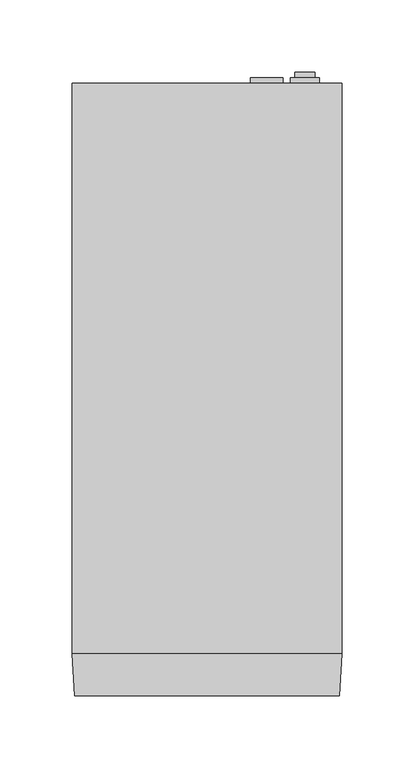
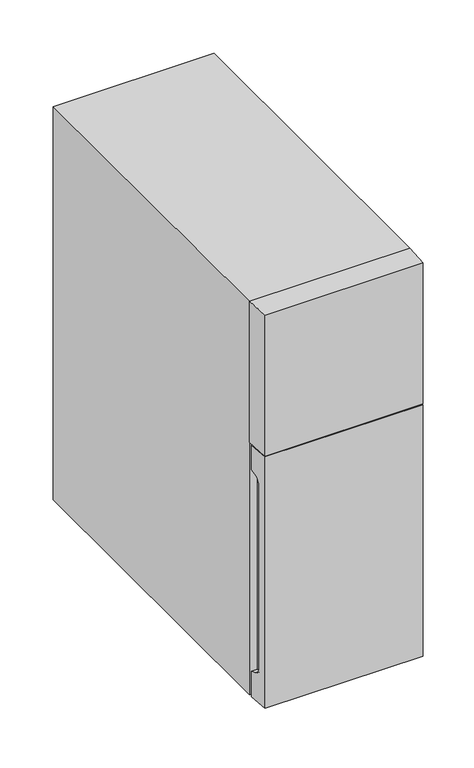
"""IFC4 building model written with IfcOpenShell, lengths in millimetres: proxy geometry, QF_SCHAERER_Cooling_Unit 7 Liter : Cooling Unit 7 Liter."""

from ifc_helpers import new_model, si_unit, point, frame, frame_2d, origin, origin_with_axes, place, context, project, spatial, polyline, circle_curve, ellipse_curve, trimmed, segment, composite_curve, outline, extrude, source, transform, mapped, element, save
from ifc_brep_helpers import plane_surface, revolved_surface, advanced_brep


def specialty_equipment_9da87bf8(model_context):
    return source(origin(), model_context, "Body", "SolidModel", [
        extrude(outline(polyline([(58.778379, 8.795824), (58.778379, 12.5374018), (72.4183514, 12.5374018), (72.4183514, 8.795824), (58.778379, 8.795824)])), frame((0.0, 0.0, 58.9800138), z_axis=(0.0, 0.0, 1.0), x_axis=(1.0, 0.0, 0.0)), (0.0, 0.0, 1.0), 18.567318),
        extrude(outline(polyline([(75.5441022, 4.795824), (55.6526282, 4.795824), (55.6526282, 8.795824), (75.5441022, 8.795824), (75.5441022, 4.795824)])), frame((0.0, 0.0, 55.6), z_axis=(0.0, 0.0, 1.0), x_axis=(1.0, 0.0, 0.0)), (0.0, 0.0, 1.0), 25.195737),
        extrude(outline(polyline([(50.3483652, 4.795824), (27.8483652, 4.795824), (27.8483652, 8.795824), (50.3483652, 8.795824), (50.3483652, 4.795824)])), frame((0.0, 0.0, 53.1), z_axis=(0.0, 0.0, 1.0), x_axis=(1.0, 0.0, 0.0)), (0.0, 0.0, 1.0), 30.0),
        advanced_brep(
        [(-94.0051167, -419.004176, 320.7768465), (89.3098471, -419.004176, 320.7768465), (90.8173493, -394.0019593, 320.7768465), (-95.512619, -394.0019593, 320.7768465), (-94.0051167, -419.004176, 11.6), (-95.512619, -394.0019593, 11.6), (90.8173493, -394.0019593, 11.6), (89.3098471, -419.004176, 11.6), (90.8173493, -394.0019593, 290.4933922), (83.5523652, -394.0019593, 290.4933922), (83.5523652, -394.0019593, 42.6090434), (90.8173493, -394.0019593, 42.6090434), (-95.512619, -394.0019593, 42.6090434), (-88.2476348, -394.0019593, 42.6090434), (-88.2476348, -394.0019593, 290.4933922), (-95.512619, -394.0019593, 290.4933922), (-95.0244948, -402.097593, 287.5468225), (-94.6674402, -408.0194117, 279.0895889), (-94.6674402, -408.0194117, 54.7130542), (-95.0641675, -401.4396132, 45.316128), (90.3688979, -401.4396132, 45.316128), (89.9721706, -408.0194117, 54.7130542), (89.9721706, -408.0194117, 279.0895889), (90.3292252, -402.097593, 287.5468225), (-88.2476348, -402.097593, 287.5468225), (-88.2476348, -401.4396132, 45.316128), (-88.2476348, -408.0194117, 54.7130542), (-88.2476348, -408.0194117, 279.0895889), (83.5523652, -402.097593, 287.5468225), (83.5523652, -408.0194117, 279.0895889), (83.5523652, -408.0194117, 54.7130542), (83.5523652, -401.4396132, 45.316128)],
        [
            (0, 1),
            (1, 2),
            (2, 3),
            (3, 0),
            (4, 5),
            (5, 6),
            (6, 7),
            (7, 4),
            (0, 4),
            (7, 1),
            (2, 8),
            (8, 9),
            (9, 10),
            (10, 11),
            (11, 6),
            (5, 12),
            (12, 13),
            (13, 14),
            (14, 15),
            (15, 3),
            (15, 16),
            (16, 17, ellipse_curve(frame((-95.2100929, -399.0194117, 279.0895889), z_axis=(0.9981872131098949, 0.06018544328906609, 0.0), x_axis=(0.06018544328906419, -0.9981872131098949, 0.0)), 9.0163447, 9.0)),
            (17, 18),
            (18, 19, ellipse_curve(frame((-95.2703877, -398.0194117, 54.7130542), z_axis=(0.9981872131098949, 0.06018544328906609, 0.0), x_axis=(0.06018544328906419, -0.9981872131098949, 0.0)), 10.0181608, 10.0)),
            (19, 12),
            (11, 20),
            (20, 21, ellipse_curve(frame((90.5751181, -398.0194117, 54.7130542), z_axis=(-0.9981872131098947, 0.060185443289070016, 0.0), x_axis=(-0.06018544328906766, -0.9981872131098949, 0.0)), 10.0181608, 10.0)),
            (21, 22),
            (22, 23, ellipse_curve(frame((90.5148233, -399.0194117, 279.0895889), z_axis=(-0.9981872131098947, 0.060185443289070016, 0.0), x_axis=(-0.06018544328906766, -0.9981872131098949, 0.0)), 9.0163447, 9.0)),
            (23, 8),
            (24, 14),
            (13, 25),
            (25, 26, circle_curve(frame((-88.2476348, -398.0194117, 54.7130542), z_axis=(-1.0, 0.0, 0.0), x_axis=(0.0, -1.0, 0.0)), 10.0)),
            (26, 27),
            (27, 24, circle_curve(frame((-88.2476348, -399.0194117, 279.0895889), z_axis=(-1.0, 0.0, 0.0), x_axis=(0.0, -1.0, 0.0)), 9.0)),
            (27, 17),
            (16, 24),
            (26, 18),
            (25, 19),
            (28, 29, circle_curve(frame((83.5523652, -399.0194117, 279.0895889), z_axis=(1.0, 0.0, 0.0), x_axis=(0.0, -1.0, 0.0)), 9.0)),
            (29, 30),
            (30, 31, circle_curve(frame((83.5523652, -398.0194117, 54.7130542), z_axis=(1.0, 0.0, 0.0), x_axis=(0.0, -1.0, 0.0)), 10.0)),
            (31, 10),
            (9, 28),
            (28, 23),
            (22, 29),
            (21, 30),
            (20, 31),
        ],
        [
            plane_surface(frame((-136.410899, -419.004176, 320.7768465), z_axis=(0.0, 0.0, 1.0), x_axis=(1.0, 0.0, 0.0))),
            plane_surface(frame((-136.410899, -419.004176, 11.6), z_axis=(0.0, 0.0, -1.0), x_axis=(-1.0, 0.0, 0.0))),
            plane_surface(frame((-94.0051167, -419.004176, 320.7768465), z_axis=(0.0, -1.0, 0.0), x_axis=(0.0, 0.0, -1.0))),
            plane_surface(frame((90.8173493, -394.0019593, 320.7768465), z_axis=(0.0, 1.0, 0.0), x_axis=(0.0, 0.0, -1.0))),
            plane_surface(frame((-95.512619, -394.0019593, 320.7768465), z_axis=(-0.9981872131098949, -0.06018544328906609, 0.0), x_axis=(0.0, 0.0, -1.0))),
            plane_surface(frame((89.3098471, -419.004176, 320.7768465), z_axis=(0.9981872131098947, -0.060185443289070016, 0.0), x_axis=(0.0, 0.0, -1.0))),
            plane_surface(frame((-88.2476348, -408.0194117, 279.0895889), z_axis=(-1.0, 0.0, 0.0), x_axis=(0.0, 0.0, -1.0))),
            revolved_surface(polyline([(-88.2476348, -408.0194117, 279.0895889), (-95.75274560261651, -408.0194117, 279.0895889)]), (-95.7476348, -399.0194117, 279.0895889), (1.0, 0.0, 0.0)),
            plane_surface(frame((-88.2476348, -408.0194117, 279.0895889), z_axis=(0.0, 1.0, 0.0), x_axis=(-1.0, 0.0, 0.0))),
            revolved_surface(polyline([(-88.2476348, -408.0194117, 54.7130542), (-95.87333514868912, -408.0194117, 54.7130542)]), (-95.7476348, -398.0194117, 54.7130542), (1.0, 0.0, 0.0)),
            plane_surface(frame((-88.2476348, -401.4396132, 45.316128), z_axis=(0.0, 0.34202014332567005, 0.939692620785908), x_axis=(-1.0, 0.0, 0.0))),
            plane_surface(frame((-88.2476348, -394.0019593, 290.4933922), z_axis=(0.0, 0.3420201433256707, -0.9396926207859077), x_axis=(-1.0, 0.0, 0.0))),
            plane_surface(frame((83.5523652, -395.4757807, 289.9569651), z_axis=(1.0, 0.0, 0.0), x_axis=(0.0, 0.9396926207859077, 0.3420201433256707))),
            revolved_surface(polyline([(83.5523652, -408.0194117, 279.0895889), (91.05747600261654, -408.0194117, 279.0895889)]), (91.0523652, -399.0194117, 279.0895889), (-1.0, 0.0, 0.0)),
            plane_surface(frame((83.5523652, -408.0194117, 54.7130542), z_axis=(0.0, 1.0, 0.0), x_axis=(1.0, 0.0, 0.0))),
            revolved_surface(polyline([(83.5523652, -408.0194117, 54.7130542), (91.17806554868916, -408.0194117, 54.7130542)]), (91.0523652, -398.0194117, 54.7130542), (-1.0, 0.0, 0.0)),
            plane_surface(frame((83.5523652, -394.0019593, 42.6090434), z_axis=(0.0, 0.34202014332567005, 0.939692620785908), x_axis=(1.0, 0.0, 0.0))),
            plane_surface(frame((83.5523652, -402.097593, 287.5468225), z_axis=(0.0, 0.3420201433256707, -0.9396926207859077), x_axis=(1.0, 0.0, 0.0))),
        ],
        [
            (0, [[1, 2, 3, 4]]),
            (1, [[5, 6, 7, 8]]),
            (2, [[-1, 9, -8, 10]]),
            (3, [[-3, 11, 12, 13, 14, 15, -6, 16, 17, 18, 19, 20]]),
            (4, [[-4, -20, 21, 22, 23, 24, 25, -16, -5, -9]]),
            (5, [[-2, -10, -7, -15, 26, 27, 28, 29, 30, -11]]),
            (6, [[31, -18, 32, 33, 34, 35]]),
            (7, [[-35, 36, -22, 37]]),
            (8, [[-34, 38, -23, -36]]),
            (9, [[-33, 39, -24, -38]]),
            (10, [[-32, -17, -25, -39]]),
            (11, [[-31, -37, -21, -19]]),
            (12, [[40, 41, 42, 43, -13, 44]]),
            (13, [[-40, 45, -29, 46]]),
            (14, [[-41, -46, -28, 47]]),
            (15, [[-42, -47, -27, 48]]),
            (16, [[-43, -48, -26, -14]]),
            (17, [[-44, -12, -30, -45]]),
        ],
    ),
        extrude(outline(polyline([(-94.0051167, -419.004176), (-95.7476348, -390.104176), (91.0523652, -390.104176), (89.3098471, -419.004176), (-94.0051167, -419.004176)])), frame((0.0, 0.0, 321.8461849), z_axis=(0.0, 0.0, 1.0), x_axis=(1.0, 0.0, 0.0)), (0.0, 0.0, 1.0), 173.2368397),
        extrude(outline(composite_curve([segment(trimmed(circle_curve(frame_2d((-61.8476348, -356.004176)), 3.1), [point((-64.9476348, -356.004176))], [point((-58.7476348, -356.004176))], False, "CARTESIAN"), True, "CONTINUOUS"), segment(trimmed(circle_curve(frame_2d((-61.8476348, -356.004176)), 3.1), [point((-58.7476348, -356.004176))], [point((-64.9476348, -356.004176))], False, "CARTESIAN"), True, "CONTINUOUS")], self_intersect=False)), frame((0.0, 0.0, 6.1), z_axis=(0.0, 0.0, 1.0), x_axis=(1.0, 0.0, 0.0)), (0.0, 0.0, 1.0), 5.5),
        extrude(outline(composite_curve([segment(trimmed(circle_curve(frame_2d((57.1523652, -356.004176)), 3.1), [point((60.2523652, -356.004176))], [point((54.0523652, -356.004176))], False, "CARTESIAN"), True, "CONTINUOUS"), segment(trimmed(circle_curve(frame_2d((57.1523652, -356.004176)), 3.1), [point((54.0523652, -356.004176))], [point((60.2523652, -356.004176))], False, "CARTESIAN"), True, "CONTINUOUS")], self_intersect=False)), frame((0.0, 0.0, 6.1), z_axis=(0.0, 0.0, 1.0), x_axis=(1.0, 0.0, 0.0)), (0.0, 0.0, 1.0), 5.5),
        extrude(outline(composite_curve([segment(trimmed(circle_curve(frame_2d((-61.8476348, -64.504176)), 3.1), [point((-64.9476348, -64.504176))], [point((-58.7476348, -64.504176))], False, "CARTESIAN"), True, "CONTINUOUS"), segment(trimmed(circle_curve(frame_2d((-61.8476348, -64.504176)), 3.1), [point((-58.7476348, -64.504176))], [point((-64.9476348, -64.504176))], False, "CARTESIAN"), True, "CONTINUOUS")], self_intersect=False)), frame((0.0, 0.0, 6.1), z_axis=(0.0, 0.0, 1.0), x_axis=(1.0, 0.0, 0.0)), (0.0, 0.0, 1.0), 5.5),
        extrude(outline(composite_curve([segment(trimmed(circle_curve(frame_2d((57.1523652, -64.504176)), 3.1), [point((60.2523652, -64.504176))], [point((54.0523652, -64.504176))], False, "CARTESIAN"), True, "CONTINUOUS"), segment(trimmed(circle_curve(frame_2d((57.1523652, -64.504176)), 3.1), [point((54.0523652, -64.504176))], [point((60.2523652, -64.504176))], False, "CARTESIAN"), True, "CONTINUOUS")], self_intersect=False)), frame((0.0, 0.0, 6.1), z_axis=(0.0, 0.0, 1.0), x_axis=(1.0, 0.0, 0.0)), (0.0, 0.0, 1.0), 5.5),
        extrude(outline(composite_curve([segment(trimmed(circle_curve(frame_2d((-61.8476348, -356.004176)), 12.0), [point((-73.8476348, -356.004176))], [point((-49.8476348, -356.004176))], False, "CARTESIAN"), True, "CONTINUOUS"), segment(trimmed(circle_curve(frame_2d((-61.8476348, -356.004176)), 12.0), [point((-49.8476348, -356.004176))], [point((-73.8476348, -356.004176))], False, "CARTESIAN"), True, "CONTINUOUS")], self_intersect=False)), origin_with_axes(), (0.0, 0.0, 1.0), 6.1),
        extrude(outline(composite_curve([segment(trimmed(circle_curve(frame_2d((57.1523652, -356.004176)), 12.0), [point((69.1523652, -356.004176))], [point((45.1523652, -356.004176))], False, "CARTESIAN"), True, "CONTINUOUS"), segment(trimmed(circle_curve(frame_2d((57.1523652, -356.004176)), 12.0), [point((45.1523652, -356.004176))], [point((69.1523652, -356.004176))], False, "CARTESIAN"), True, "CONTINUOUS")], self_intersect=False)), origin_with_axes(), (0.0, 0.0, 1.0), 6.1),
        extrude(outline(composite_curve([segment(trimmed(circle_curve(frame_2d((-61.8476348, -64.504176)), 12.0), [point((-73.8476348, -64.504176))], [point((-49.8476348, -64.504176))], False, "CARTESIAN"), True, "CONTINUOUS"), segment(trimmed(circle_curve(frame_2d((-61.8476348, -64.504176)), 12.0), [point((-49.8476348, -64.504176))], [point((-73.8476348, -64.504176))], False, "CARTESIAN"), True, "CONTINUOUS")], self_intersect=False)), origin_with_axes(), (0.0, 0.0, 1.0), 6.1),
        extrude(outline(composite_curve([segment(trimmed(circle_curve(frame_2d((57.1523652, -64.504176)), 12.0), [point((69.1523652, -64.504176))], [point((45.1523652, -64.504176))], False, "CARTESIAN"), True, "CONTINUOUS"), segment(trimmed(circle_curve(frame_2d((57.1523652, -64.504176)), 12.0), [point((45.1523652, -64.504176))], [point((69.1523652, -64.504176))], False, "CARTESIAN"), True, "CONTINUOUS")], self_intersect=False)), origin_with_axes(), (0.0, 0.0, 1.0), 6.1),
        extrude(outline(polyline([(91.0523652, 4.795824), (91.0523652, -390.104176), (-95.7476348, -390.104176), (-95.7476348, 4.795824), (91.0523652, 4.795824)])), frame((0.0, 0.0, 11.6), z_axis=(0.0, 0.0, 1.0), x_axis=(1.0, 0.0, 0.0)), (0.0, 0.0, 1.0), 483.4830247),
    ])


if __name__ == "__main__":
    model = new_model("IFC4")
    model_context = context("Model", 3, world=origin())
    ifc_project = project(units=[si_unit("LENGTHUNIT", "METRE", prefix="MILLI")], contexts=[model_context])
    site = spatial("IfcSite", under=ifc_project)
    building = spatial("IfcBuilding", under=site)
    placement = place(None, origin())
    specialty_equipment_shape = specialty_equipment_9da87bf8(model_context)
    element("IfcBuildingElementProxy", 1, Name="QF_SCHAERER_Cooling_Unit 7 Liter : Cooling Unit 7 Liter", ObjectType="QF_SCHAERER_Cooling_Unit 7 Liter : Cooling Unit 7 Liter", at=placement, inside=building, context=model_context, shape_type="MappedRepresentation", body=[
        mapped(specialty_equipment_shape, transform((0.0, 0.0, 0.0), x_axis=(1.0, 0.0, 0.0), y_axis=(0.0, 1.0, 0.0), z_axis=(0.0, 0.0, 1.0))),
    ])
    save(model, "model.ifc")
